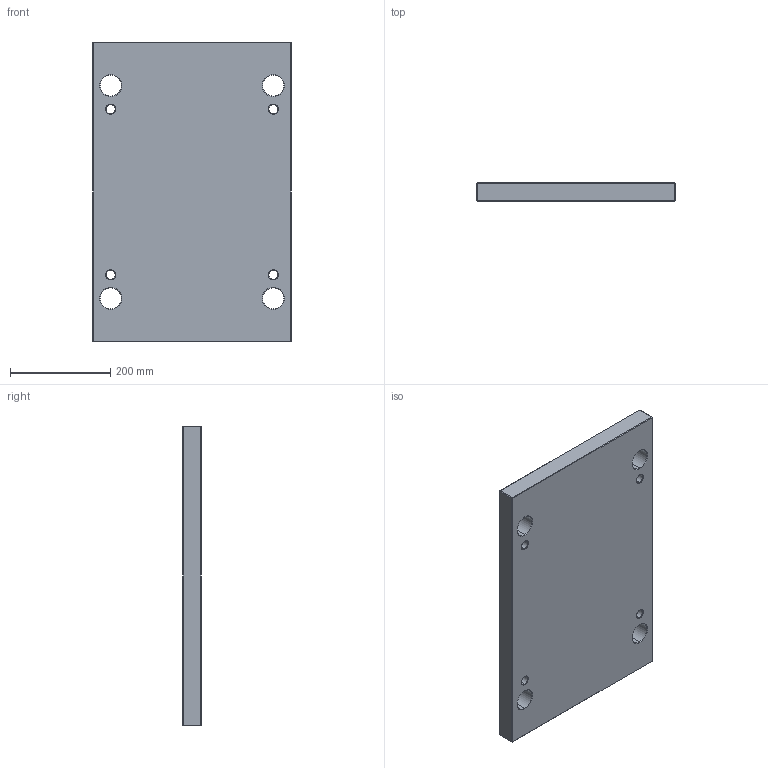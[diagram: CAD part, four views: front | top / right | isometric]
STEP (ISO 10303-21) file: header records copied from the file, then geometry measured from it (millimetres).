
FILE_DESCRIPTION (( 'STEP AP214' ), '1' );
FILE_NAME ('PBAV-EU-396x496x36.STEP', '2020-03-17T19:25:31', ( 'August' ), ( '' ), 'SwSTEP 2.0', 'SolidWorks 2018', '' );
FILE_SCHEMA (( 'AUTOMOTIVE_DESIGN' ));
Length unit declared in the file: millimetre
Products named in the file (1): PBAV-EU-396x496x36
Bounding box: 396 x 36 x 596 mm (x, y, z)
Volume: 8237652 mm3; surface area: 555956.4 mm2
Topology: 1 solids, 1 shells, 86 faces, 184 edges, 104 vertices
Faces by surface type: cone 32, plane 30, cylinder 24
Entity records: 2346 total; most frequent: DIRECTION 438, CARTESIAN_POINT 375, ORIENTED_EDGE 368, EDGE_CURVE 184, AXIS2_PLACEMENT_3D 167, EDGE_LOOP 106, VECTOR 104, LINE 104
